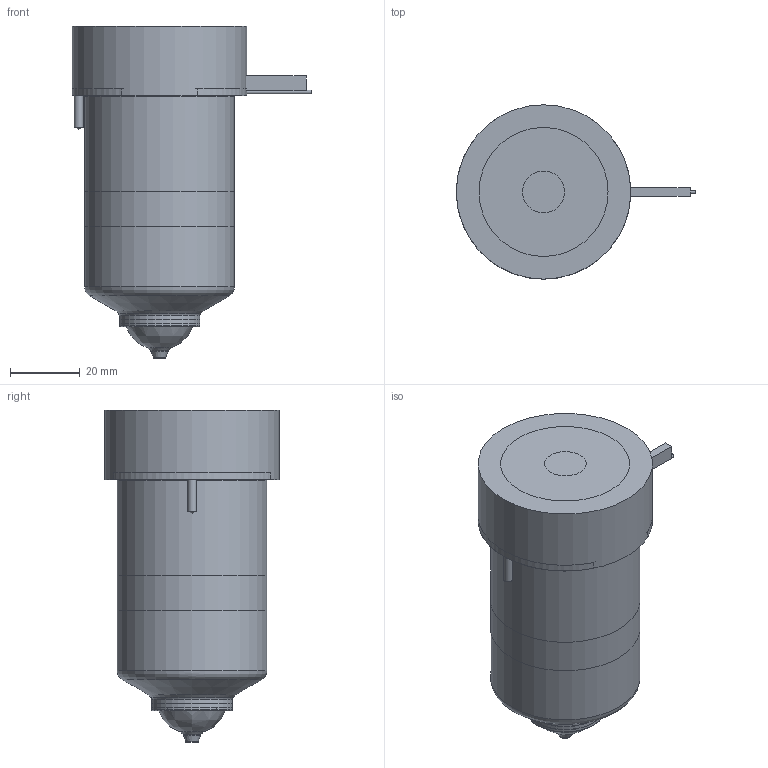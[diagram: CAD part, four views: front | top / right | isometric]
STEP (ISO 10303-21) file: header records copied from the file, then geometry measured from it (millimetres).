
FILE_DESCRIPTION(/* description */ (''),/* implementation_level */ '2;1');
FILE_NAME(/* name */ 'BXOV27075_200C_b',/* time_stamp */ '2007-01-18T08:47:50+13:00',/* author */ (''),/* organization */ (''),/* preprocessor_version */ 'ST-DEVELOPER v9',/* originating_system */ 'UGS - NX 4.0',/* authorisation */ '');
FILE_SCHEMA (('CONFIG_CONTROL_DESIGN'));
Length unit declared in the file: millimetre
Products named in the file (1): BXOV27075_200C_b
Bounding box: 68.6 x 50 x 95.2 mm (x, y, z)
Volume: 246957.7 mm3; surface area: 36304.6 mm2
Topology: 6 solids, 6 shells, 86 faces, 171 edges, 109 vertices
Faces by surface type: plane 35, cylinder 25, cone 14, torus 9, bspline 3
Full cylindrical faces by diameter (mm): 1 x3, 2.5 x2, 5 x1, 12 x1, 16.8 x1, 17 x1, 22.61 x1, 23.01 x2, 27.5 x1, 38.1 x1, 43 x2, 50 x1
Entity records: 2273 total; most frequent: CARTESIAN_POINT 571, DIRECTION 356, ORIENTED_EDGE 254, AXIS2_PLACEMENT_3D 159, EDGE_LOOP 134, EDGE_CURVE 127, VERTEX_POINT 102, ADVANCED_FACE 86
